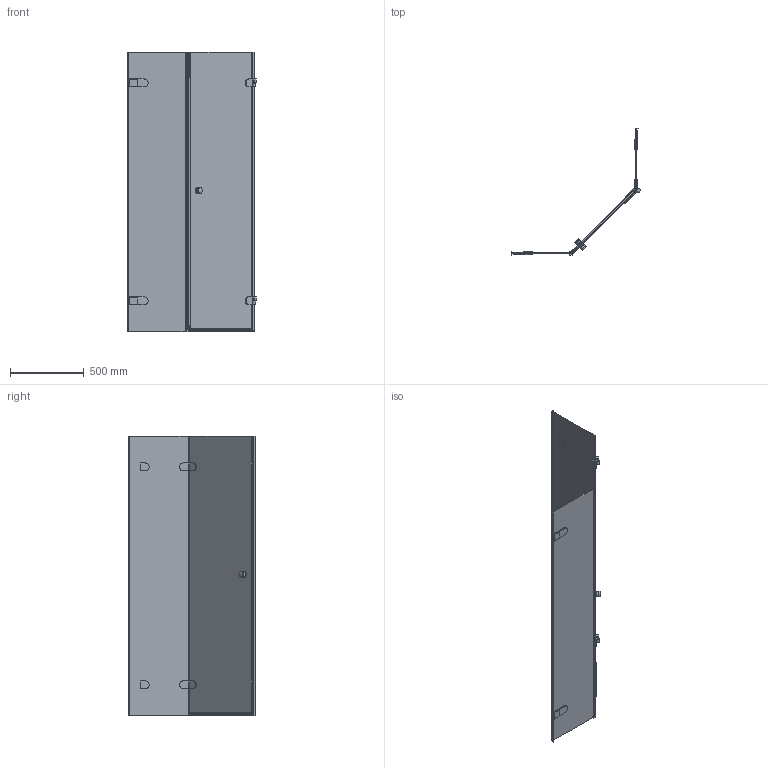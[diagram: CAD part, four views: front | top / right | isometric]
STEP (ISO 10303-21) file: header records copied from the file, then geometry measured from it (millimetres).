
FILE_DESCRIPTION(/* description */ (''),/* implementation_level */ '2;1');
FILE_NAME(/* name */ 'D:\4\777\LUX FESTT GK-001-2522T\LUX FESTT GK-001-2522T правая модель\LUX FESTT GK-001-2522T ПРАВАЯ-3D.stp',/* time_stamp */ '2018-03-19T14:14:11+03:00',/* author */ ('ChechurovS'),/* organization */ (''),/* preprocessor_version */ 'ST-DEVELOPER v15.2',/* originating_system */ 'Autodesk Inventor 2014',/* authorisation */ '');
FILE_SCHEMA (('CONFIG_CONTROL_DESIGN'));
Length unit declared in the file: millimetre
Products named in the file (1): LUX FESTT GK-001-2522T ПРАВАЯ-
3D
Bounding box: 875.28 x 861.68 x 1901 mm (x, y, z)
Volume: 17332009.4 mm3; surface area: 5955319.1 mm2
Topology: 3 solids, 3 shells, 636 faces, 1550 edges, 951 vertices
Faces by surface type: plane 458, cylinder 154, torus 12, bspline 8, sphere 4
Full cylindrical faces by diameter (mm): 38 x4
Entity records: 19479 total; most frequent: CARTESIAN_POINT 3848, ORIENTED_EDGE 3076, DIRECTION 3068, EDGE_CURVE 1536, LINE 1180, VECTOR 1180, VERTEX_POINT 949, AXIS2_PLACEMENT_3D 944
